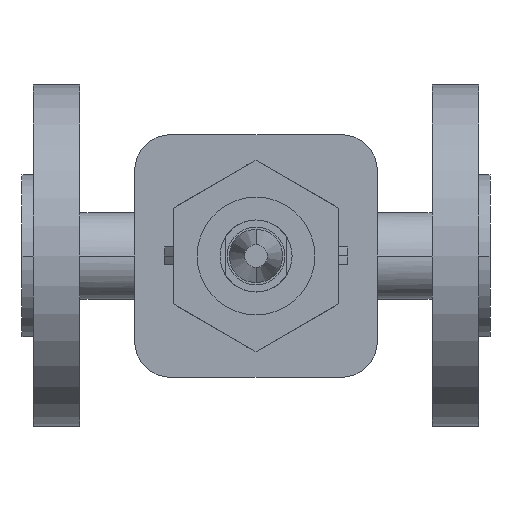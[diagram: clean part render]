
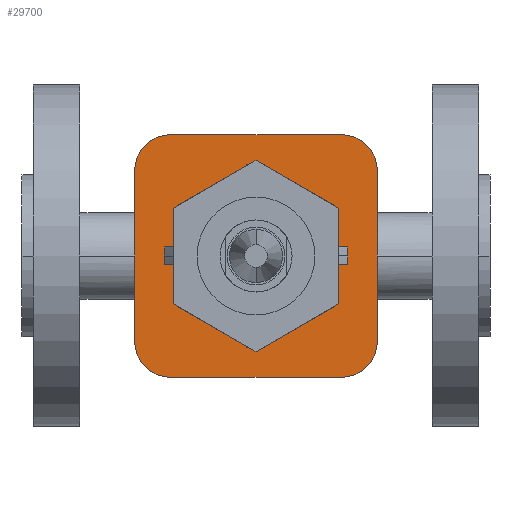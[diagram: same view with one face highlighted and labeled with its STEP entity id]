
A CAD part, front view. The second image highlights one B-rep face of the part: STEP entity #29700.
In plain terms, the highlighted planar face has unit normal (0, -1, 0).
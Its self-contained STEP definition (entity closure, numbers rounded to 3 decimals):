
#9280=CARTESIAN_POINT('',(44.,-61.5,0.));
#9290=VERTEX_POINT('',#9280);
#9320=CARTESIAN_POINT('',(65.,-61.5,0.));
#9330=DIRECTION('',(0.,-1.,0.));
#9340=DIRECTION('',(-1.,0.,0.));
#9350=AXIS2_PLACEMENT_3D('',#9320,#9330,#9340);
#9360=CIRCLE('',#9350,21.);
#9370=CARTESIAN_POINT('',(86.,-61.5,0.));
#9380=VERTEX_POINT('',#9370);
#9390=EDGE_CURVE('',#9380,#9290,#9360,.T.);
#28900=CARTESIAN_POINT('',(32.25,-61.5,0.));
#28910=DIRECTION('',(0.,-1.,0.));
#28920=DIRECTION('',(-1.,0.,0.));
#28930=AXIS2_PLACEMENT_3D('',#28900,#28910,#28920);
#28940=PLANE('',#28930);
#28950=CARTESIAN_POINT('',(41.312,-61.5,23.688));
#28960=DIRECTION('',(0.,-1.,0.));
#28970=DIRECTION('',(-1.,0.,0.));
#28980=AXIS2_PLACEMENT_3D('',#28950,#28960,#28970);
#28990=CIRCLE('',#28980,10.);
#29000=CARTESIAN_POINT('',(41.312,-61.5,33.688));
#29010=VERTEX_POINT('',#29000);
#29020=CARTESIAN_POINT('',(31.312,-61.5,23.688));
#29030=VERTEX_POINT('',#29020);
#29040=EDGE_CURVE('',#29010,#29030,#28990,.T.);
#29050=ORIENTED_EDGE('',*,*,#29040,.T.);
#29060=CARTESIAN_POINT('',(36.781,-61.5,33.688));
#29070=DIRECTION('',(-1.,0.,0.));
#29080=VECTOR('',#29070,1.);
#29090=LINE('',#29060,#29080);
#29100=CARTESIAN_POINT('',(88.688,-61.5,33.688));
#29110=VERTEX_POINT('',#29100);
#29120=EDGE_CURVE('',#29110,#29010,#29090,.T.);
#29130=ORIENTED_EDGE('',*,*,#29120,.T.);
#29140=CARTESIAN_POINT('',(88.688,-61.5,23.688));
#29150=DIRECTION('',(0.,-1.,0.));
#29160=DIRECTION('',(0.,0.,1.));
#29170=AXIS2_PLACEMENT_3D('',#29140,#29150,#29160);
#29180=CIRCLE('',#29170,10.);
#29190=CARTESIAN_POINT('',(98.688,-61.5,23.688));
#29200=VERTEX_POINT('',#29190);
#29210=EDGE_CURVE('',#29200,#29110,#29180,.T.);
#29220=ORIENTED_EDGE('',*,*,#29210,.T.);
#29230=CARTESIAN_POINT('',(98.688,-61.5,11.844));
#29240=DIRECTION('',(0.,0.,1.));
#29250=VECTOR('',#29240,1.);
#29260=LINE('',#29230,#29250);
#29270=CARTESIAN_POINT('',(98.688,-61.5,-23.688));
#29280=VERTEX_POINT('',#29270);
#29290=EDGE_CURVE('',#29280,#29200,#29260,.T.);
#29300=ORIENTED_EDGE('',*,*,#29290,.T.);
#29310=CARTESIAN_POINT('',(88.688,-61.5,-23.688));
#29320=DIRECTION('',(0.,-1.,0.));
#29330=DIRECTION('',(1.,0.,0.));
#29340=AXIS2_PLACEMENT_3D('',#29310,#29320,#29330);
#29350=CIRCLE('',#29340,10.);
#29360=CARTESIAN_POINT('',(88.688,-61.5,-33.688));
#29370=VERTEX_POINT('',#29360);
#29380=EDGE_CURVE('',#29370,#29280,#29350,.T.);
#29390=ORIENTED_EDGE('',*,*,#29380,.T.);
#29400=CARTESIAN_POINT('',(60.469,-61.5,-33.688));
#29410=DIRECTION('',(1.,0.,0.));
#29420=VECTOR('',#29410,1.);
#29430=LINE('',#29400,#29420);
#29440=CARTESIAN_POINT('',(41.312,-61.5,-33.688));
#29450=VERTEX_POINT('',#29440);
#29460=EDGE_CURVE('',#29450,#29370,#29430,.T.);
#29470=ORIENTED_EDGE('',*,*,#29460,.T.);
#29480=CARTESIAN_POINT('',(41.312,-61.5,-23.688));
#29490=DIRECTION('',(0.,-1.,0.));
#29500=DIRECTION('',(0.,0.,-1.));
#29510=AXIS2_PLACEMENT_3D('',#29480,#29490,#29500);
#29520=CIRCLE('',#29510,10.);
#29530=CARTESIAN_POINT('',(31.312,-61.5,-23.688));
#29540=VERTEX_POINT('',#29530);
#29550=EDGE_CURVE('',#29540,#29450,#29520,.T.);
#29560=ORIENTED_EDGE('',*,*,#29550,.T.);
#29570=CARTESIAN_POINT('',(31.312,-61.5,-11.844));
#29580=DIRECTION('',(0.,0.,-1.));
#29590=VECTOR('',#29580,1.);
#29600=LINE('',#29570,#29590);
#29610=EDGE_CURVE('',#29030,#29540,#29600,.T.);
#29620=ORIENTED_EDGE('',*,*,#29610,.T.);
#29630=EDGE_LOOP('',(#29620,#29560,#29470,#29390,#29300,#29220,#29130,
#29050));
#29640=FACE_OUTER_BOUND('',#29630,.T.);
#29650=EDGE_CURVE('',#9290,#9380,#9360,.T.);
#29660=ORIENTED_EDGE('',*,*,#29650,.F.);
#29670=ORIENTED_EDGE('',*,*,#9390,.F.);
#29680=EDGE_LOOP('',(#29670,#29660));
#29690=FACE_BOUND('',#29680,.T.);
#29700=ADVANCED_FACE('',(#29640,#29690),#28940,.T.);
